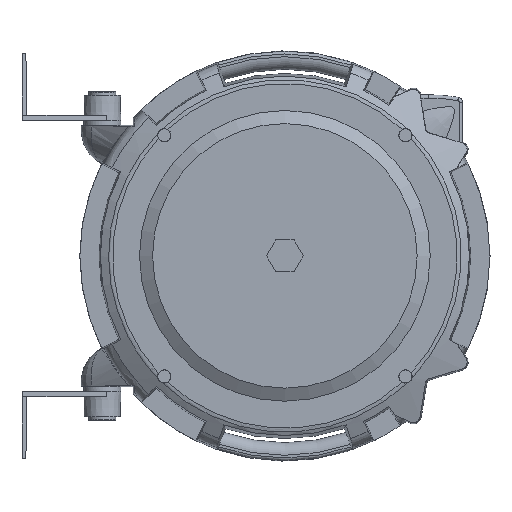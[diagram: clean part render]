
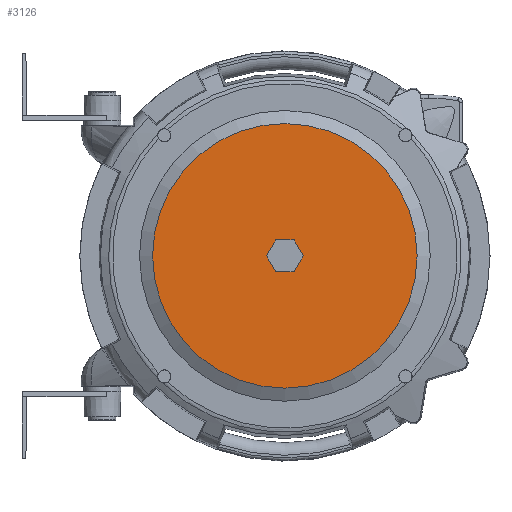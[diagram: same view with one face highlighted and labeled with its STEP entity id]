
A CAD part, top view. The second image highlights one B-rep face of the part: STEP entity #3126.
In plain terms, the highlighted planar face has unit normal (0, 0, 1).
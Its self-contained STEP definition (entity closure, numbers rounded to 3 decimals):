
#364 = FACE_OUTER_BOUND ( 'NONE', #11440, .T. ) ;
#3126 = ADVANCED_FACE ( 'NONE', ( #364 ), #15119, .T. ) ;
#4385 = EDGE_CURVE ( 'NONE', #10265, #10265, #10107, .T. ) ;
#4883 = AXIS2_PLACEMENT_3D ( 'NONE', #15235, #15223, #15225 ) ;
#5043 = AXIS2_PLACEMENT_3D ( 'NONE', #9321, #9322, #9323 ) ;
#9321 = CARTESIAN_POINT ( 'NONE',  ( 0., 0., 107. ) ) ;
#9322 = DIRECTION ( 'NONE',  ( 0., 0., -1. ) ) ;
#9323 = DIRECTION ( 'NONE',  ( -1., 0., 0. ) ) ;
#10107 = CIRCLE ( 'NONE', #5043, 158. ) ;
#10265 = VERTEX_POINT ( 'NONE', #14269 ) ;
#11440 = EDGE_LOOP ( 'NONE', ( #12137 ) ) ;
#12137 = ORIENTED_EDGE ( 'NONE', *, *, #4385, .F. ) ;
#14269 = CARTESIAN_POINT ( 'NONE',  ( -158., 0., 107. ) ) ;
#15119 = PLANE ( 'NONE',  #4883 ) ;
#15223 = DIRECTION ( 'NONE',  ( 0., 0., 1. ) ) ;
#15225 = DIRECTION ( 'NONE',  ( 1., 0., 0. ) ) ;
#15235 = CARTESIAN_POINT ( 'NONE',  ( 0., 158., 107. ) ) ;
